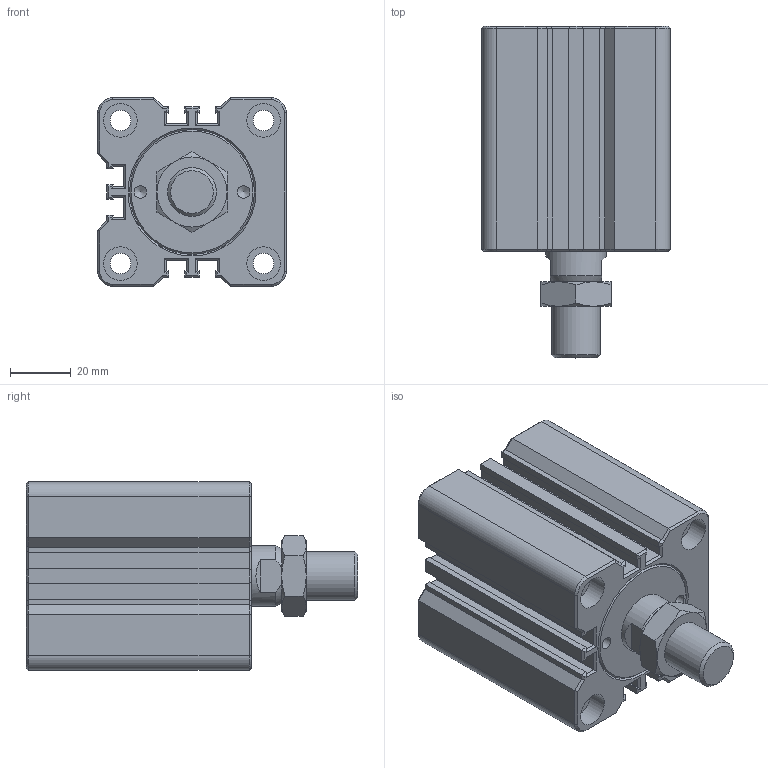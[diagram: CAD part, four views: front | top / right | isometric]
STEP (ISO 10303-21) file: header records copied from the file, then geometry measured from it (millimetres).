
FILE_DESCRIPTION(/* description */ (''),/* implementation_level */ '2;1');
FILE_NAME(/* name */ 'HTM70-SDMB32X20W',/* time_stamp */ '2019-06-05T16:25:45+08:00',/* author */ ('JEFF HUANG'),/* organization */ ('TAIWAN AMAC CLAMP INDUSTRIAL CO., LTD.'),/* preprocessor_version */ 'ST-DEVELOPER v16.7',/* originating_system */ 'DEX',/* authorisation */ $);
FILE_SCHEMA (('AUTOMOTIVE_DESIGN {1 0 10303 214 3 1 1}'));
Length unit declared in the file: millimetre
Products named in the file (1): HTM70-SDMB32X20W
Bounding box: 62 x 109 x 62 mm (x, y, z)
Volume: 247204.8 mm3; surface area: 42846.1 mm2
Topology: 1 solids, 1 shells, 341 faces, 787 edges, 470 vertices
Faces by surface type: plane 226, cone 52, bspline 36, cylinder 27
Full cylindrical faces by diameter (mm): 4.1 x2, 5 x2, 6 x1, 6.8 x4, 11 x8, 12 x2, 13 x2, 16 x1, 20 x1
Entity records: 11889 total; most frequent: CARTESIAN_POINT 2290, ORIENTED_EDGE 1472, DIRECTION 1356, EDGE_CURVE 736, LINE 492, VECTOR 492, VERTEX_POINT 458, AXIS2_PLACEMENT_3D 432
